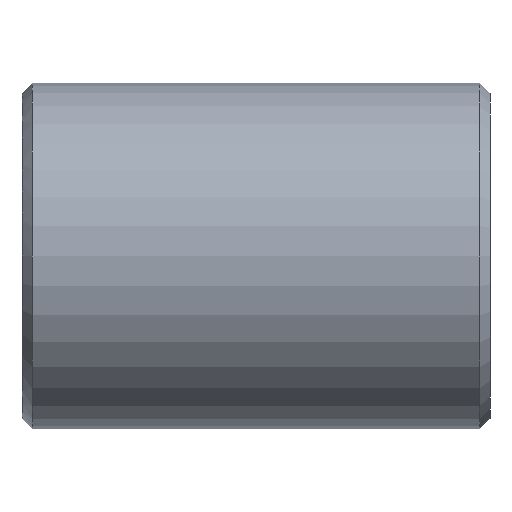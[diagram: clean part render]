
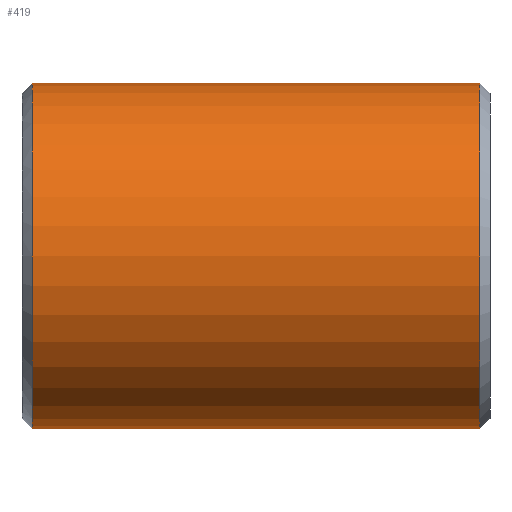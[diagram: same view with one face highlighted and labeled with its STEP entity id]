
A CAD part, front view. The second image highlights one B-rep face of the part: STEP entity #419.
In plain terms, the highlighted cylindrical face has radius 17 mm (diameter 34 mm), a partial arc.
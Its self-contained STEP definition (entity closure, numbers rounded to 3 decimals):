
#231=CARTESIAN_POINT('Vertex',(1.,0.,-17.)) ;
#238=CARTESIAN_POINT('Vertex',(1.,0.,17.)) ;
#267=CARTESIAN_POINT('Axis2P3D Location',(1.,0.,0.)) ;
#271=CARTESIAN_POINT('Vertex',(1.,-17.,0.)) ;
#274=CARTESIAN_POINT('Axis2P3D Location',(1.,0.,0.)) ;
#359=CARTESIAN_POINT('Line Origine',(46.,0.,17.)) ;
#363=CARTESIAN_POINT('Vertex',(45.,0.,17.)) ;
#377=CARTESIAN_POINT('Vertex',(45.,0.,-17.)) ;
#380=CARTESIAN_POINT('Line Origine',(46.,0.,-17.)) ;
#394=CARTESIAN_POINT('Axis2P3D Location',(46.,0.,0.)) ;
#399=CARTESIAN_POINT('Axis2P3D Location',(45.,0.,0.)) ;
#403=CARTESIAN_POINT('Vertex',(45.,-17.,0.)) ;
#406=CARTESIAN_POINT('Axis2P3D Location',(45.,0.,0.)) ;
#268=DIRECTION('Axis2P3D Direction',(1.,0.,-0.)) ;
#275=DIRECTION('Axis2P3D Direction',(1.,0.,-0.)) ;
#360=DIRECTION('Vector Direction',(-1.,0.,0.)) ;
#381=DIRECTION('Vector Direction',(-1.,0.,0.)) ;
#395=DIRECTION('Axis2P3D Direction',(-1.,-0.,-0.)) ;
#396=DIRECTION('Axis2P3D XDirection',(0.,0.,-1.)) ;
#400=DIRECTION('Axis2P3D Direction',(-1.,-0.,-0.)) ;
#407=DIRECTION('Axis2P3D Direction',(-1.,-0.,-0.)) ;
#269=AXIS2_PLACEMENT_3D('Circle Axis2P3D',#267,#268,$) ;
#276=AXIS2_PLACEMENT_3D('Circle Axis2P3D',#274,#275,$) ;
#397=AXIS2_PLACEMENT_3D('Cylinder Axis2P3D',#394,#395,#396) ;
#401=AXIS2_PLACEMENT_3D('Circle Axis2P3D',#399,#400,$) ;
#408=AXIS2_PLACEMENT_3D('Circle Axis2P3D',#406,#407,$) ;
#412=ORIENTED_EDGE('',*,*,#384,.T.) ;
#413=ORIENTED_EDGE('',*,*,#405,.F.) ;
#414=ORIENTED_EDGE('',*,*,#410,.F.) ;
#415=ORIENTED_EDGE('',*,*,#365,.T.) ;
#416=ORIENTED_EDGE('',*,*,#278,.T.) ;
#417=ORIENTED_EDGE('',*,*,#273,.T.) ;
#361=VECTOR('Line Direction',#360,1.) ;
#382=VECTOR('Line Direction',#381,1.) ;
#419=ADVANCED_FACE('352-25X46',(#418),#398,.T.) ;
#270=CIRCLE('generated circle',#269,17.) ;
#277=CIRCLE('generated circle',#276,17.) ;
#402=CIRCLE('generated circle',#401,17.) ;
#409=CIRCLE('generated circle',#408,17.) ;
#398=CYLINDRICAL_SURFACE('generated cylinder',#397,17.) ;
#273=EDGE_CURVE('',#272,#232,#270,.T.) ;
#278=EDGE_CURVE('',#239,#272,#277,.T.) ;
#365=EDGE_CURVE('',#364,#239,#362,.T.) ;
#384=EDGE_CURVE('',#232,#378,#383,.F.) ;
#405=EDGE_CURVE('',#404,#378,#402,.F.) ;
#410=EDGE_CURVE('',#364,#404,#409,.F.) ;
#411=EDGE_LOOP('',(#412,#413,#414,#415,#416,#417)) ;
#418=FACE_OUTER_BOUND('',#411,.T.) ;
#362=LINE('Line',#359,#361) ;
#383=LINE('Line',#380,#382) ;
#232=VERTEX_POINT('',#231) ;
#239=VERTEX_POINT('',#238) ;
#272=VERTEX_POINT('',#271) ;
#364=VERTEX_POINT('',#363) ;
#378=VERTEX_POINT('',#377) ;
#404=VERTEX_POINT('',#403) ;
